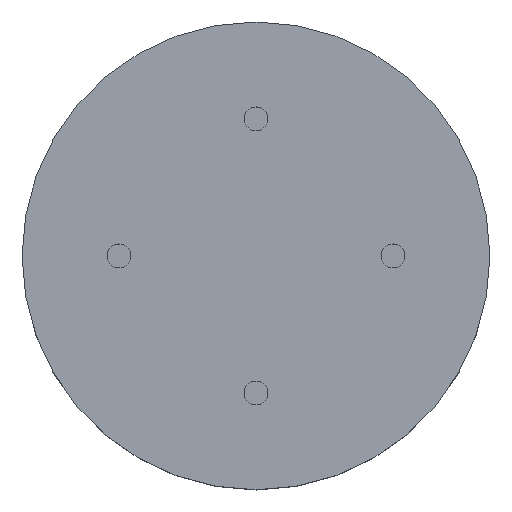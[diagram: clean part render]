
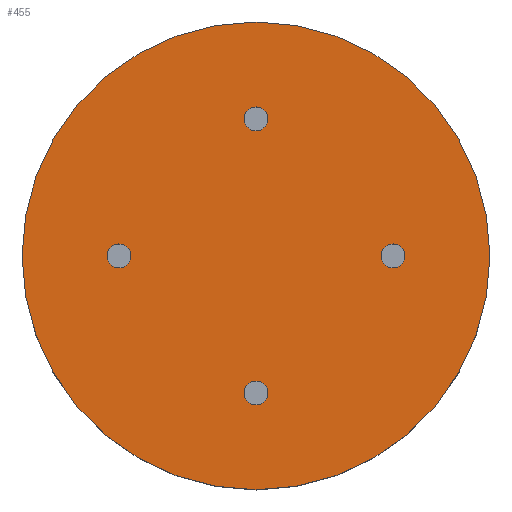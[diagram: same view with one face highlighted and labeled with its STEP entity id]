
A CAD part, top view. The second image highlights one B-rep face of the part: STEP entity #455.
In plain terms, the highlighted planar face has unit normal (0, 0, 1).
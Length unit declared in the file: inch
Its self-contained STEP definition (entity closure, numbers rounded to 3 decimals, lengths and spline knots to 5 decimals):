
#5 = AXIS2_PLACEMENT_3D ( 'NONE', #87, #105, #85 ) ;
#13 = CARTESIAN_POINT ( 'NONE',  ( -0.6565, 0., 0.632 ) ) ;
#22 = CARTESIAN_POINT ( 'NONE',  ( 1.227, 0., 0.632 ) ) ;
#85 = DIRECTION ( 'NONE',  ( 1., 0., 0. ) ) ;
#87 = CARTESIAN_POINT ( 'NONE',  ( 0., 0., 0.632 ) ) ;
#89 = PLANE ( 'NONE',  #5 ) ;
#105 = DIRECTION ( 'NONE',  ( 0., 0., 1. ) ) ;
#117 = DIRECTION ( 'NONE',  ( 1., 0., 0. ) ) ;
#118 = DIRECTION ( 'NONE',  ( 0., 0., 1. ) ) ;
#119 = CARTESIAN_POINT ( 'NONE',  ( -0.719, 0., 0.632 ) ) ;
#126 = DIRECTION ( 'NONE',  ( 1., 0., 0. ) ) ;
#127 = DIRECTION ( 'NONE',  ( 0., 0., 1. ) ) ;
#128 = CARTESIAN_POINT ( 'NONE',  ( 0., -0.719, 0.632 ) ) ;
#136 = DIRECTION ( 'NONE',  ( 1., 0., 0. ) ) ;
#137 = DIRECTION ( 'NONE',  ( 0., 0., 1. ) ) ;
#138 = CARTESIAN_POINT ( 'NONE',  ( 0.719, 0., 0.632 ) ) ;
#142 = DIRECTION ( 'NONE',  ( -1., 0., 0. ) ) ;
#143 = DIRECTION ( 'NONE',  ( 0., 0., -1. ) ) ;
#144 = CARTESIAN_POINT ( 'NONE',  ( 0., 0., 0.632 ) ) ;
#156 = DIRECTION ( 'NONE',  ( 1., 0., 0. ) ) ;
#157 = DIRECTION ( 'NONE',  ( 0., 0., 1. ) ) ;
#158 = CARTESIAN_POINT ( 'NONE',  ( 0., -0.719, 0.632 ) ) ;
#159 = DIRECTION ( 'NONE',  ( 1., 0., 0. ) ) ;
#160 = DIRECTION ( 'NONE',  ( 0., 0., 1. ) ) ;
#161 = CARTESIAN_POINT ( 'NONE',  ( 0.719, 0., 0.632 ) ) ;
#162 = DIRECTION ( 'NONE',  ( -1., 0., 0. ) ) ;
#163 = DIRECTION ( 'NONE',  ( 0., 0., -1. ) ) ;
#164 = CARTESIAN_POINT ( 'NONE',  ( 0., 0., 0.632 ) ) ;
#165 = DIRECTION ( 'NONE',  ( 1., 0., 0. ) ) ;
#166 = DIRECTION ( 'NONE',  ( 0., 0., 1. ) ) ;
#167 = CARTESIAN_POINT ( 'NONE',  ( 0., 0.719, 0.632 ) ) ;
#171 = DIRECTION ( 'NONE',  ( 1., 0., 0. ) ) ;
#172 = DIRECTION ( 'NONE',  ( 0., 0., 1. ) ) ;
#173 = CARTESIAN_POINT ( 'NONE',  ( -0.719, 0., 0.632 ) ) ;
#177 = DIRECTION ( 'NONE',  ( 1., 0., 0. ) ) ;
#179 = DIRECTION ( 'NONE',  ( 0., 0., 1. ) ) ;
#181 = CARTESIAN_POINT ( 'NONE',  ( 0., 0.719, 0.632 ) ) ;
#186 = CIRCLE ( 'NONE', #378, 0.0625 ) ;
#188 = ORIENTED_EDGE ( 'NONE', *, *, #338, .F. ) ;
#191 = ORIENTED_EDGE ( 'NONE', *, *, #339, .F. ) ;
#192 = CIRCLE ( 'NONE', #365, 0.0625 ) ;
#194 = ORIENTED_EDGE ( 'NONE', *, *, #345, .F. ) ;
#197 = CIRCLE ( 'NONE', #368, 1.227 ) ;
#198 = ORIENTED_EDGE ( 'NONE', *, *, #355, .F. ) ;
#203 = ORIENTED_EDGE ( 'NONE', *, *, #335, .F. ) ;
#208 = ORIENTED_EDGE ( 'NONE', *, *, #340, .F. ) ;
#214 = FACE_BOUND ( 'NONE', #496, .T. ) ;
#217 = ORIENTED_EDGE ( 'NONE', *, *, #347, .F. ) ;
#223 = CIRCLE ( 'NONE', #374, 0.0625 ) ;
#240 = FACE_OUTER_BOUND ( 'NONE', #484, .T. ) ;
#254 = CIRCLE ( 'NONE', #370, 0.0625 ) ;
#259 = CIRCLE ( 'NONE', #376, 0.0625 ) ;
#267 = ORIENTED_EDGE ( 'NONE', *, *, #337, .F. ) ;
#269 = FACE_BOUND ( 'NONE', #508, .T. ) ;
#270 = FACE_BOUND ( 'NONE', #519, .T. ) ;
#277 = FACE_BOUND ( 'NONE', #499, .T. ) ;
#280 = CIRCLE ( 'NONE', #367, 0.0625 ) ;
#287 = CIRCLE ( 'NONE', #363, 0.0625 ) ;
#288 = ORIENTED_EDGE ( 'NONE', *, *, #333, .F. ) ;
#292 = ORIENTED_EDGE ( 'NONE', *, *, #351, .F. ) ;
#295 = CIRCLE ( 'NONE', #369, 0.0625 ) ;
#296 = CIRCLE ( 'NONE', #373, 1.227 ) ;
#333 = EDGE_CURVE ( 'NONE', #512, #513, #287, .T. ) ;
#335 = EDGE_CURVE ( 'NONE', #501, #504, #192, .T. ) ;
#337 = EDGE_CURVE ( 'NONE', #513, #512, #280, .T. ) ;
#338 = EDGE_CURVE ( 'NONE', #491, #502, #197, .T. ) ;
#339 = EDGE_CURVE ( 'NONE', #487, #506, #295, .T. ) ;
#340 = EDGE_CURVE ( 'NONE', #495, #503, #254, .T. ) ;
#345 = EDGE_CURVE ( 'NONE', #502, #491, #296, .T. ) ;
#347 = EDGE_CURVE ( 'NONE', #506, #487, #223, .T. ) ;
#351 = EDGE_CURVE ( 'NONE', #503, #495, #259, .T. ) ;
#355 = EDGE_CURVE ( 'NONE', #504, #501, #186, .T. ) ;
#363 = AXIS2_PLACEMENT_3D ( 'NONE', #181, #179, #177 ) ;
#365 = AXIS2_PLACEMENT_3D ( 'NONE', #173, #172, #171 ) ;
#367 = AXIS2_PLACEMENT_3D ( 'NONE', #167, #166, #165 ) ;
#368 = AXIS2_PLACEMENT_3D ( 'NONE', #164, #163, #162 ) ;
#369 = AXIS2_PLACEMENT_3D ( 'NONE', #161, #160, #159 ) ;
#370 = AXIS2_PLACEMENT_3D ( 'NONE', #158, #157, #156 ) ;
#373 = AXIS2_PLACEMENT_3D ( 'NONE', #144, #143, #142 ) ;
#374 = AXIS2_PLACEMENT_3D ( 'NONE', #138, #137, #136 ) ;
#376 = AXIS2_PLACEMENT_3D ( 'NONE', #128, #127, #126 ) ;
#378 = AXIS2_PLACEMENT_3D ( 'NONE', #119, #118, #117 ) ;
#440 = CARTESIAN_POINT ( 'NONE',  ( 0.0625, 0.719, 0.632 ) ) ;
#441 = CARTESIAN_POINT ( 'NONE',  ( -0.0625, 0.719, 0.632 ) ) ;
#444 = CARTESIAN_POINT ( 'NONE',  ( 0.6565, 0., 0.632 ) ) ;
#446 = CARTESIAN_POINT ( 'NONE',  ( -0.7815, 0., 0.632 ) ) ;
#447 = CARTESIAN_POINT ( 'NONE',  ( -0.0625, -0.719, 0.632 ) ) ;
#448 = CARTESIAN_POINT ( 'NONE',  ( -1.227, 0., 0.632 ) ) ;
#449 = CARTESIAN_POINT ( 'NONE',  ( 0.7815, 0., 0.632 ) ) ;
#450 = CARTESIAN_POINT ( 'NONE',  ( 0.0625, -0.719, 0.632 ) ) ;
#455 = ADVANCED_FACE ( 'NONE', ( #214, #270, #277, #269, #240 ), #89, .T. ) ;
#484 = EDGE_LOOP ( 'NONE', ( #194, #188 ) ) ;
#487 = VERTEX_POINT ( 'NONE', #449 ) ;
#491 = VERTEX_POINT ( 'NONE', #22 ) ;
#495 = VERTEX_POINT ( 'NONE', #450 ) ;
#496 = EDGE_LOOP ( 'NONE', ( #267, #288 ) ) ;
#499 = EDGE_LOOP ( 'NONE', ( #208, #292 ) ) ;
#501 = VERTEX_POINT ( 'NONE', #13 ) ;
#502 = VERTEX_POINT ( 'NONE', #448 ) ;
#503 = VERTEX_POINT ( 'NONE', #447 ) ;
#504 = VERTEX_POINT ( 'NONE', #446 ) ;
#506 = VERTEX_POINT ( 'NONE', #444 ) ;
#508 = EDGE_LOOP ( 'NONE', ( #191, #217 ) ) ;
#512 = VERTEX_POINT ( 'NONE', #441 ) ;
#513 = VERTEX_POINT ( 'NONE', #440 ) ;
#519 = EDGE_LOOP ( 'NONE', ( #203, #198 ) ) ;
